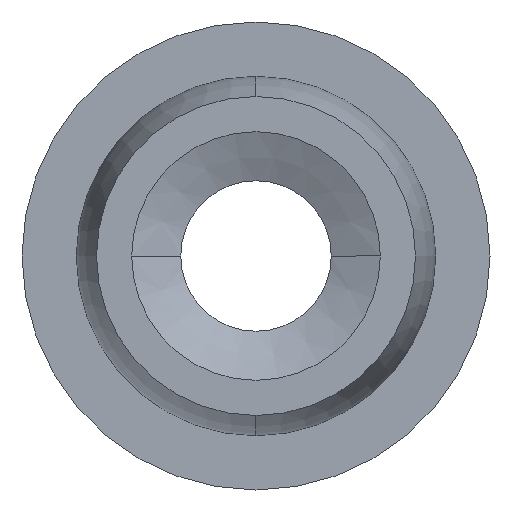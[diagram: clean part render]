
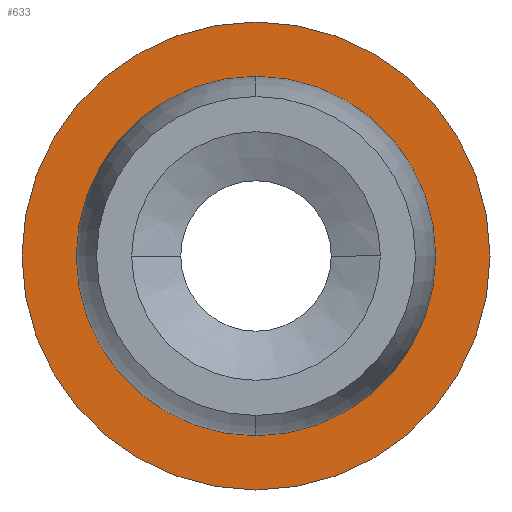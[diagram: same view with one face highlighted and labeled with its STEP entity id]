
A CAD part, left-side view. The second image highlights one B-rep face of the part: STEP entity #633.
In plain terms, the highlighted planar face has unit normal (-1, 0, 0).
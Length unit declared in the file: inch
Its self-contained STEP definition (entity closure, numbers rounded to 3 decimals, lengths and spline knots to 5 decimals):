
#14 = FACE_OUTER_BOUND ( 'NONE', #379, .T. ) ;
#18 = FACE_BOUND ( 'NONE', #362, .T. ) ;
#28 = CARTESIAN_POINT ( 'NONE',  ( -1.125, 0., -0.3125 ) ) ;
#54 = EDGE_CURVE ( 'NONE', #571, #710, #338, .T. ) ;
#66 = AXIS2_PLACEMENT_3D ( 'NONE', #655, #686, #684 ) ;
#127 = CIRCLE ( 'NONE', #313, 0.24 ) ;
#130 = CARTESIAN_POINT ( 'NONE',  ( -1.125, 0., 0.3125 ) ) ;
#132 = DIRECTION ( 'NONE',  ( 0., 0., 1. ) ) ;
#133 = DIRECTION ( 'NONE',  ( -1., 0., 0. ) ) ;
#147 = EDGE_CURVE ( 'NONE', #558, #718, #302, .T. ) ;
#160 = EDGE_CURVE ( 'NONE', #718, #558, #299, .T. ) ;
#175 = ORIENTED_EDGE ( 'NONE', *, *, #147, .T. ) ;
#179 = CARTESIAN_POINT ( 'NONE',  ( -1.125, 0., -0.24 ) ) ;
#200 = CARTESIAN_POINT ( 'NONE',  ( -1.125, 0., 0. ) ) ;
#207 = CARTESIAN_POINT ( 'NONE',  ( -1.125, 0., 0.24 ) ) ;
#210 = ORIENTED_EDGE ( 'NONE', *, *, #160, .T. ) ;
#228 = DIRECTION ( 'NONE',  ( 0., 0., 1. ) ) ;
#230 = DIRECTION ( 'NONE',  ( -1., 0., 0. ) ) ;
#231 = CARTESIAN_POINT ( 'NONE',  ( -1.125, 0., -0.24 ) ) ;
#246 = PLANE ( 'NONE',  #326 ) ;
#299 = CIRCLE ( 'NONE', #66, 0.3125 ) ;
#300 = AXIS2_PLACEMENT_3D ( 'NONE', #722, #721, #720 ) ;
#302 = CIRCLE ( 'NONE', #658, 0.3125 ) ;
#313 = AXIS2_PLACEMENT_3D ( 'NONE', #200, #133, #132 ) ;
#326 = AXIS2_PLACEMENT_3D ( 'NONE', #231, #230, #228 ) ;
#338 = CIRCLE ( 'NONE', #300, 0.24 ) ;
#362 = EDGE_LOOP ( 'NONE', ( #371, #373 ) ) ;
#371 = ORIENTED_EDGE ( 'NONE', *, *, #54, .F. ) ;
#373 = ORIENTED_EDGE ( 'NONE', *, *, #653, .F. ) ;
#379 = EDGE_LOOP ( 'NONE', ( #210, #175 ) ) ;
#558 = VERTEX_POINT ( 'NONE', #28 ) ;
#571 = VERTEX_POINT ( 'NONE', #207 ) ;
#633 = ADVANCED_FACE ( 'NONE', ( #14, #18 ), #246, .T. ) ;
#653 = EDGE_CURVE ( 'NONE', #710, #571, #127, .T. ) ;
#655 = CARTESIAN_POINT ( 'NONE',  ( -1.125, 0., 0. ) ) ;
#658 = AXIS2_PLACEMENT_3D ( 'NONE', #697, #696, #695 ) ;
#684 = DIRECTION ( 'NONE',  ( 0., 0., 1. ) ) ;
#686 = DIRECTION ( 'NONE',  ( -1., 0., 0. ) ) ;
#695 = DIRECTION ( 'NONE',  ( 0., 0., 1. ) ) ;
#696 = DIRECTION ( 'NONE',  ( -1., 0., 0. ) ) ;
#697 = CARTESIAN_POINT ( 'NONE',  ( -1.125, 0., 0. ) ) ;
#710 = VERTEX_POINT ( 'NONE', #179 ) ;
#718 = VERTEX_POINT ( 'NONE', #130 ) ;
#720 = DIRECTION ( 'NONE',  ( 0., 0., 1. ) ) ;
#721 = DIRECTION ( 'NONE',  ( -1., 0., 0. ) ) ;
#722 = CARTESIAN_POINT ( 'NONE',  ( -1.125, 0., 0. ) ) ;
